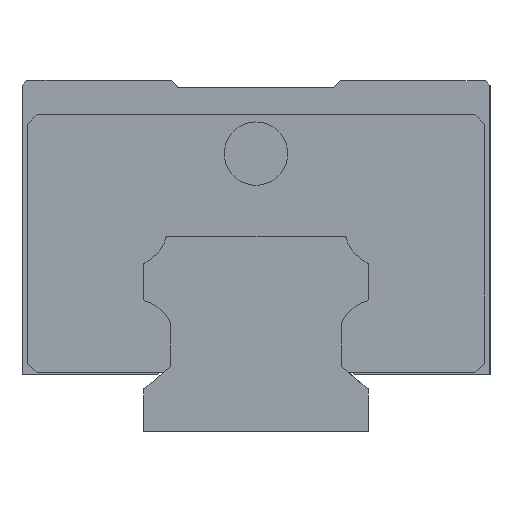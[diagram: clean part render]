
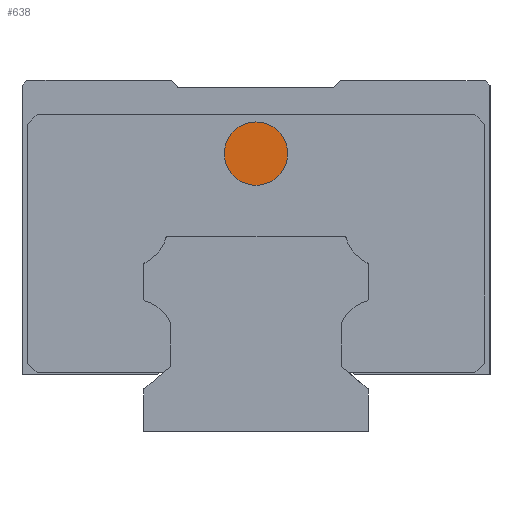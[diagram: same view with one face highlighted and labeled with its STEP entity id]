
A CAD part, left-side view. The second image highlights one B-rep face of the part: STEP entity #638.
In plain terms, the highlighted planar face has unit normal (-1, 0, 0).
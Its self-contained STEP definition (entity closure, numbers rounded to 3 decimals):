
#417 = PLANE ( 'NONE',  #6072 ) ;
#638 = ADVANCED_FACE ( 'NONE', ( #1971 ), #417, .T. ) ;
#1154 = EDGE_CURVE ( 'NONE', #2187, #9682, #8131, .T. ) ;
#1971 = FACE_OUTER_BOUND ( 'NONE', #6728, .T. ) ;
#2187 = VERTEX_POINT ( 'NONE', #10616 ) ;
#3163 = AXIS2_PLACEMENT_3D ( 'NONE', #3882, #13861, #12632 ) ;
#3376 = CARTESIAN_POINT ( 'NONE',  ( -44., 0., 28.5 ) ) ;
#3882 = CARTESIAN_POINT ( 'NONE',  ( -44., 0., 28.5 ) ) ;
#4511 = DIRECTION ( 'NONE',  ( 1., 0., 0. ) ) ;
#5396 = CARTESIAN_POINT ( 'NONE',  ( -44., 0., 28.5 ) ) ;
#5565 = DIRECTION ( 'NONE',  ( -1., 0., 0. ) ) ;
#5897 = ORIENTED_EDGE ( 'NONE', *, *, #1154, .F. ) ;
#6072 = AXIS2_PLACEMENT_3D ( 'NONE', #5396, #5565, #8098 ) ;
#6728 = EDGE_LOOP ( 'NONE', ( #8934, #5897 ) ) ;
#6893 = DIRECTION ( 'NONE',  ( 0., 0., -1. ) ) ;
#8098 = DIRECTION ( 'NONE',  ( 0., 0., 1. ) ) ;
#8131 = CIRCLE ( 'NONE', #3163, 3.25 ) ;
#8262 = CARTESIAN_POINT ( 'NONE',  ( -44., 0., 31.75 ) ) ;
#8315 = EDGE_CURVE ( 'NONE', #9682, #2187, #11956, .T. ) ;
#8934 = ORIENTED_EDGE ( 'NONE', *, *, #8315, .F. ) ;
#9682 = VERTEX_POINT ( 'NONE', #8262 ) ;
#10616 = CARTESIAN_POINT ( 'NONE',  ( -44., 0., 25.25 ) ) ;
#10907 = AXIS2_PLACEMENT_3D ( 'NONE', #3376, #4511, #6893 ) ;
#11956 = CIRCLE ( 'NONE', #10907, 3.25 ) ;
#12632 = DIRECTION ( 'NONE',  ( 0., 0., -1. ) ) ;
#13861 = DIRECTION ( 'NONE',  ( 1., 0., 0. ) ) ;
